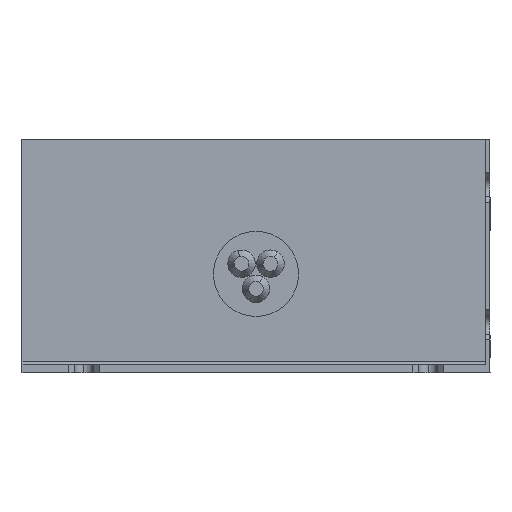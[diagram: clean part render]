
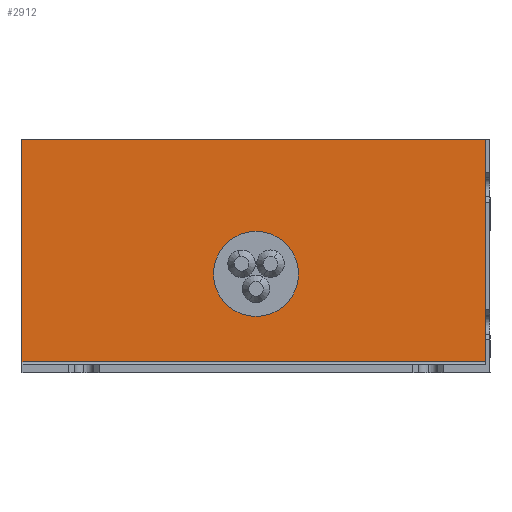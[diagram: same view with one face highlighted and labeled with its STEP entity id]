
A CAD part, front view. The second image highlights one B-rep face of the part: STEP entity #2912.
In plain terms, the highlighted planar face has unit normal (0, -1, 0).
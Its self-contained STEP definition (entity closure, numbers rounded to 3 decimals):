
#14 = VERTEX_POINT ( 'NONE', #952 ) ;
#67 = EDGE_CURVE ( 'NONE', #1690, #4076, #2606, .T. ) ;
#88 = EDGE_CURVE ( 'NONE', #1061, #1690, #1630, .T. ) ;
#153 = ORIENTED_EDGE ( 'NONE', *, *, #88, .F. ) ;
#157 = VECTOR ( 'NONE', #3882, 1000. ) ;
#271 = FACE_OUTER_BOUND ( 'NONE', #4005, .T. ) ;
#312 = CARTESIAN_POINT ( 'NONE',  ( -85.001, -377., -384.611 ) ) ;
#326 = DIRECTION ( 'NONE',  ( 0., 0., 1. ) ) ;
#358 = EDGE_CURVE ( 'NONE', #14, #2269, #4217, .T. ) ;
#373 = CARTESIAN_POINT ( 'NONE',  ( -85.001, -377., 4. ) ) ;
#399 = CIRCLE ( 'NONE', #2585, 15.45 ) ;
#428 = EDGE_CURVE ( 'NONE', #2269, #1468, #3280, .T. ) ;
#575 = CIRCLE ( 'NONE', #1190, 15.45 ) ;
#637 = PLANE ( 'NONE',  #3613 ) ;
#675 = CARTESIAN_POINT ( 'NONE',  ( 85., -377., 4. ) ) ;
#729 = VECTOR ( 'NONE', #2652, 1000. ) ;
#770 = VERTEX_POINT ( 'NONE', #3849 ) ;
#911 = CARTESIAN_POINT ( 'NONE',  ( -85.001, -377., 85. ) ) ;
#952 = CARTESIAN_POINT ( 'NONE',  ( 83.501, -377., 85. ) ) ;
#988 = CARTESIAN_POINT ( 'NONE',  ( 0., -377., 36. ) ) ;
#1061 = VERTEX_POINT ( 'NONE', #3062 ) ;
#1177 = ORIENTED_EDGE ( 'NONE', *, *, #2374, .F. ) ;
#1190 = AXIS2_PLACEMENT_3D ( 'NONE', #988, #1649, #3645 ) ;
#1207 = VECTOR ( 'NONE', #326, 1000. ) ;
#1345 = CARTESIAN_POINT ( 'NONE',  ( -85.001, -377., -384.611 ) ) ;
#1468 = VERTEX_POINT ( 'NONE', #2558 ) ;
#1528 = VECTOR ( 'NONE', #3255, 1000. ) ;
#1594 = DIRECTION ( 'NONE',  ( 1., 0., 0. ) ) ;
#1614 = DIRECTION ( 'NONE',  ( 0., -1., 0. ) ) ;
#1630 = LINE ( 'NONE', #675, #729 ) ;
#1649 = DIRECTION ( 'NONE',  ( 0., -1., 0. ) ) ;
#1690 = VERTEX_POINT ( 'NONE', #373 ) ;
#2049 = DIRECTION ( 'NONE',  ( 0., 0., -1. ) ) ;
#2207 = CARTESIAN_POINT ( 'NONE',  ( 0., -377., 51.45 ) ) ;
#2216 = ORIENTED_EDGE ( 'NONE', *, *, #2878, .F. ) ;
#2256 = ORIENTED_EDGE ( 'NONE', *, *, #358, .F. ) ;
#2269 = VERTEX_POINT ( 'NONE', #3461 ) ;
#2374 = EDGE_CURVE ( 'NONE', #1468, #1061, #3805, .T. ) ;
#2377 = DIRECTION ( 'NONE',  ( 0., -1., 0. ) ) ;
#2556 = CARTESIAN_POINT ( 'NONE',  ( 83.501, -377., -384.611 ) ) ;
#2558 = CARTESIAN_POINT ( 'NONE',  ( 83.5, -377., 3. ) ) ;
#2560 = ORIENTED_EDGE ( 'NONE', *, *, #2666, .F. ) ;
#2585 = AXIS2_PLACEMENT_3D ( 'NONE', #3700, #2377, #2049 ) ;
#2606 = LINE ( 'NONE', #1345, #1207 ) ;
#2630 = EDGE_LOOP ( 'NONE', ( #3737, #2560 ) ) ;
#2652 = DIRECTION ( 'NONE',  ( -1., 0., 0. ) ) ;
#2666 = EDGE_CURVE ( 'NONE', #770, #3195, #399, .T. ) ;
#2878 = EDGE_CURVE ( 'NONE', #4076, #14, #3517, .T. ) ;
#2912 = ADVANCED_FACE ( 'NONE', ( #271, #3582 ), #637, .T. ) ;
#2940 = DIRECTION ( 'NONE',  ( 0., 0., -1. ) ) ;
#3062 = CARTESIAN_POINT ( 'NONE',  ( 83.5, -377., 4. ) ) ;
#3195 = VERTEX_POINT ( 'NONE', #2207 ) ;
#3255 = DIRECTION ( 'NONE',  ( -1., 0., 0. ) ) ;
#3280 = LINE ( 'NONE', #3909, #1528 ) ;
#3311 = EDGE_CURVE ( 'NONE', #3195, #770, #575, .T. ) ;
#3318 = VECTOR ( 'NONE', #3828, 1000. ) ;
#3461 = CARTESIAN_POINT ( 'NONE',  ( 83.501, -377., 3. ) ) ;
#3517 = LINE ( 'NONE', #3605, #3682 ) ;
#3582 = FACE_BOUND ( 'NONE', #2630, .T. ) ;
#3605 = CARTESIAN_POINT ( 'NONE',  ( -85.001, -377., 85. ) ) ;
#3613 = AXIS2_PLACEMENT_3D ( 'NONE', #312, #1614, #2940 ) ;
#3645 = DIRECTION ( 'NONE',  ( 0., 0., -1. ) ) ;
#3682 = VECTOR ( 'NONE', #1594, 1000. ) ;
#3700 = CARTESIAN_POINT ( 'NONE',  ( 0., -377., 36. ) ) ;
#3713 = ORIENTED_EDGE ( 'NONE', *, *, #428, .F. ) ;
#3737 = ORIENTED_EDGE ( 'NONE', *, *, #3311, .F. ) ;
#3766 = CARTESIAN_POINT ( 'NONE',  ( 83.5, -377., -384.611 ) ) ;
#3805 = LINE ( 'NONE', #3766, #3318 ) ;
#3828 = DIRECTION ( 'NONE',  ( 0., 0., 1. ) ) ;
#3849 = CARTESIAN_POINT ( 'NONE',  ( 0., -377., 20.55 ) ) ;
#3882 = DIRECTION ( 'NONE',  ( 0., 0., -1. ) ) ;
#3909 = CARTESIAN_POINT ( 'NONE',  ( -85.001, -377., 3. ) ) ;
#4005 = EDGE_LOOP ( 'NONE', ( #2256, #2216, #4065, #153, #1177, #3713 ) ) ;
#4065 = ORIENTED_EDGE ( 'NONE', *, *, #67, .F. ) ;
#4076 = VERTEX_POINT ( 'NONE', #911 ) ;
#4217 = LINE ( 'NONE', #2556, #157 ) ;
